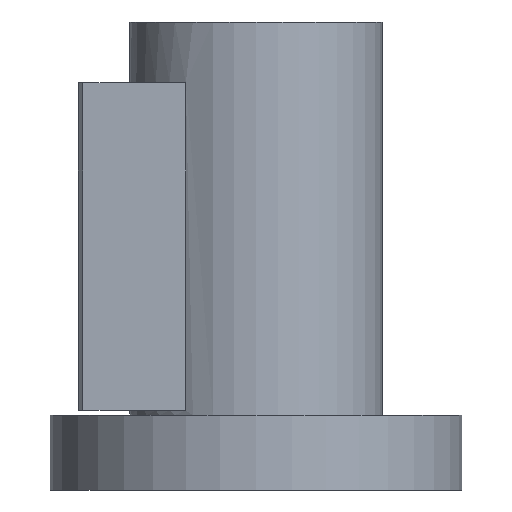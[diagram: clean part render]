
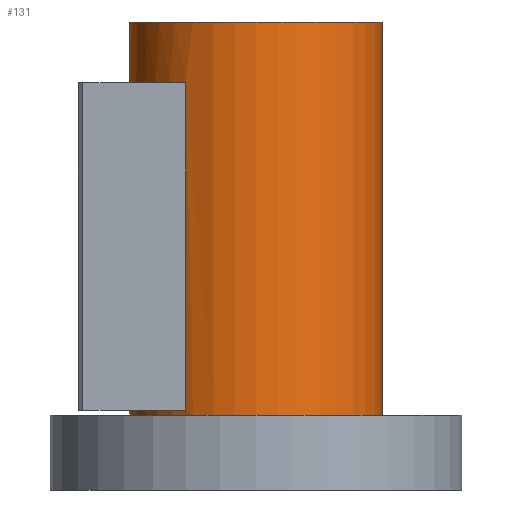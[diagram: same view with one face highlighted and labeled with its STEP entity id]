
A CAD part, front view. The second image highlights one B-rep face of the part: STEP entity #131.
In plain terms, the highlighted cylindrical face has radius 27 mm (diameter 54 mm), a full revolution.
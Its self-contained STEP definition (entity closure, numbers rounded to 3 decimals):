
#131=ADVANCED_FACE('',(#218,#219,#220),#161,.T.);
#161=CYLINDRICAL_SURFACE('',#550,27.);
#174=LINE('',#752,#196);
#175=LINE('',#756,#197);
#196=VECTOR('',#612,1.);
#197=VECTOR('',#615,1.);
#218=FACE_BOUND('',#263,.T.);
#219=FACE_BOUND('',#264,.T.);
#220=FACE_BOUND('',#265,.T.);
#263=EDGE_LOOP('',(#325));
#264=EDGE_LOOP('',(#326));
#265=EDGE_LOOP('',(#327,#328,#329,#330));
#325=ORIENTED_EDGE('',*,*,#467,.F.);
#326=ORIENTED_EDGE('',*,*,#468,.T.);
#327=ORIENTED_EDGE('',*,*,#469,.F.);
#328=ORIENTED_EDGE('',*,*,#470,.F.);
#329=ORIENTED_EDGE('',*,*,#471,.T.);
#330=ORIENTED_EDGE('',*,*,#472,.F.);
#425=VERTEX_POINT('',#746);
#426=VERTEX_POINT('',#748);
#427=VERTEX_POINT('',#750);
#428=VERTEX_POINT('',#751);
#429=VERTEX_POINT('',#753);
#430=VERTEX_POINT('',#755);
#467=EDGE_CURVE('',#425,#425,#517,.T.);
#468=EDGE_CURVE('',#426,#426,#518,.T.);
#469=EDGE_CURVE('',#427,#428,#519,.T.);
#470=EDGE_CURVE('',#429,#427,#174,.T.);
#471=EDGE_CURVE('',#429,#430,#520,.T.);
#472=EDGE_CURVE('',#428,#430,#175,.T.);
#517=CIRCLE('',#546,27.);
#518=CIRCLE('',#547,27.);
#519=CIRCLE('',#548,27.);
#520=CIRCLE('',#549,27.);
#546=AXIS2_PLACEMENT_3D('',#745,#606,#607);
#547=AXIS2_PLACEMENT_3D('',#747,#608,#609);
#548=AXIS2_PLACEMENT_3D('',#749,#610,#611);
#549=AXIS2_PLACEMENT_3D('',#754,#613,#614);
#550=AXIS2_PLACEMENT_3D('',#757,#616,#617);
#606=DIRECTION('',(0.,0.,1.));
#607=DIRECTION('',(1.,0.,0.));
#608=DIRECTION('',(0.,0.,1.));
#609=DIRECTION('',(1.,0.,0.));
#610=DIRECTION('',(0.,0.,-1.));
#611=DIRECTION('',(-1.,0.,0.));
#612=DIRECTION('',(0.,0.,1.));
#613=DIRECTION('',(0.,0.,-1.));
#614=DIRECTION('',(-1.,0.,0.));
#615=DIRECTION('',(0.,0.,-1.));
#616=DIRECTION('',(0.,0.,-1.));
#617=DIRECTION('',(-1.,0.,0.));
#745=CARTESIAN_POINT('',(0.,0.,100.));
#746=CARTESIAN_POINT('',(27.,0.,100.));
#747=CARTESIAN_POINT('',(0.,0.,16.));
#748=CARTESIAN_POINT('',(27.,0.,16.));
#749=CARTESIAN_POINT('',(0.,0.,87.));
#750=CARTESIAN_POINT('',(-15.,-22.45,87.));
#751=CARTESIAN_POINT('',(-15.,22.45,87.));
#752=CARTESIAN_POINT('',(-15.,-22.45,100.));
#753=CARTESIAN_POINT('',(-15.,-22.45,17.));
#754=CARTESIAN_POINT('',(0.,0.,17.));
#755=CARTESIAN_POINT('',(-15.,22.45,17.));
#756=CARTESIAN_POINT('',(-15.,22.45,100.));
#757=CARTESIAN_POINT('',(0.,0.,100.));
